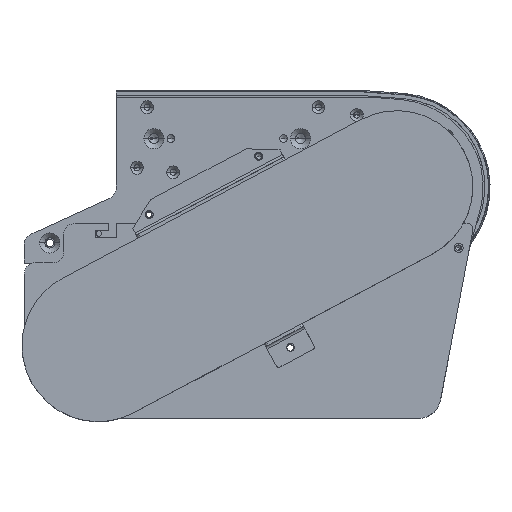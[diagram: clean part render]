
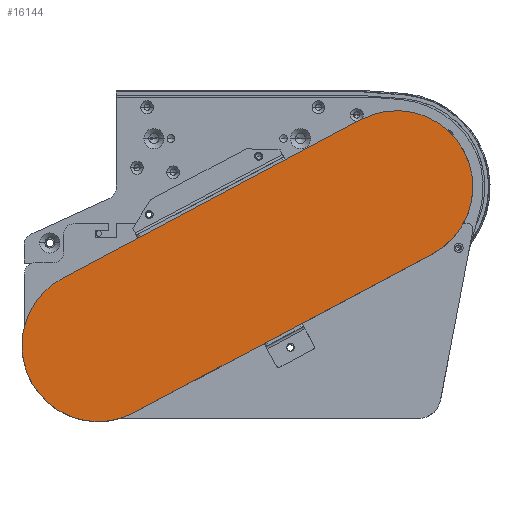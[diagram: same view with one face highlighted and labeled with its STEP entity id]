
A CAD part, top view. The second image highlights one B-rep face of the part: STEP entity #16144.
In plain terms, the highlighted planar face has unit normal (0, 0, 1).
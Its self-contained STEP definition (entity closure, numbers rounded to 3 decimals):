
#85 = VECTOR ( 'NONE', #21334, 1000. ) ;
#425 = CARTESIAN_POINT ( 'NONE',  ( -296.23, -81.334, 125.5 ) ) ;
#618 = CARTESIAN_POINT ( 'NONE',  ( -31.345, 59.508, 125.5 ) ) ;
#1584 = VERTEX_POINT ( 'NONE', #16053 ) ;
#1791 = ORIENTED_EDGE ( 'NONE', *, *, #9763, .F. ) ;
#2139 = EDGE_CURVE ( 'NONE', #5192, #3227, #4546, .T. ) ;
#2661 = CARTESIAN_POINT ( 'NONE',  ( -264.54, -140.933, 125.5 ) ) ;
#2893 = AXIS2_PLACEMENT_3D ( 'NONE', #21823, #4911, #16769 ) ;
#3227 = VERTEX_POINT ( 'NONE', #618 ) ;
#3736 = CARTESIAN_POINT ( 'NONE',  ( -264.54, -140.933, 125.5 ) ) ;
#4222 = ORIENTED_EDGE ( 'NONE', *, *, #6640, .F. ) ;
#4354 = DIRECTION ( 'NONE',  ( -1., 0., 0. ) ) ;
#4546 = LINE ( 'NONE', #19565, #85 ) ;
#4675 = AXIS2_PLACEMENT_3D ( 'NONE', #9924, #9697, #4720 ) ;
#4720 = DIRECTION ( 'NONE',  ( -1., 0., 0. ) ) ;
#4911 = DIRECTION ( 'NONE',  ( 0., 0., -1. ) ) ;
#5192 = VERTEX_POINT ( 'NONE', #425 ) ;
#5342 = ORIENTED_EDGE ( 'NONE', *, *, #2139, .F. ) ;
#6640 = EDGE_CURVE ( 'NONE', #3227, #1584, #13393, .T. ) ;
#6681 = ORIENTED_EDGE ( 'NONE', *, *, #9268, .F. ) ;
#7325 = VERTEX_POINT ( 'NONE', #19336 ) ;
#7546 = EDGE_CURVE ( 'NONE', #9840, #5192, #11458, .T. ) ;
#7685 = ORIENTED_EDGE ( 'NONE', *, *, #7546, .F. ) ;
#8274 = CARTESIAN_POINT ( 'NONE',  ( -232.851, -200.532, 125.5 ) ) ;
#9268 = EDGE_CURVE ( 'NONE', #7325, #9840, #18003, .T. ) ;
#9697 = DIRECTION ( 'NONE',  ( 0., 0., -1. ) ) ;
#9763 = EDGE_CURVE ( 'NONE', #1584, #7325, #17968, .T. ) ;
#9840 = VERTEX_POINT ( 'NONE', #18842 ) ;
#9924 = CARTESIAN_POINT ( 'NONE',  ( -264.54, -140.933, 125.5 ) ) ;
#10436 = DIRECTION ( 'NONE',  ( -1., 0., 0. ) ) ;
#11458 = CIRCLE ( 'NONE', #15911, 67.5 ) ;
#11688 = EDGE_LOOP ( 'NONE', ( #6681, #1791, #4222, #5342, #7685 ) ) ;
#13393 = CIRCLE ( 'NONE', #2893, 67.5 ) ;
#13908 = DIRECTION ( 'NONE',  ( 0., 0., -1. ) ) ;
#14454 = DIRECTION ( 'NONE',  ( 0., 0., -1. ) ) ;
#15066 = DIRECTION ( 'NONE',  ( -0.883, -0.469, 0. ) ) ;
#15911 = AXIS2_PLACEMENT_3D ( 'NONE', #2661, #14454, #4354 ) ;
#16053 = CARTESIAN_POINT ( 'NONE',  ( 32.033, -59.69, 125.5 ) ) ;
#16144 = ADVANCED_FACE ( 'NONE', ( #17009 ), #19948, .F. ) ;
#16769 = DIRECTION ( 'NONE',  ( -1., 0., 0. ) ) ;
#17009 = FACE_OUTER_BOUND ( 'NONE', #11688, .T. ) ;
#17968 = LINE ( 'NONE', #8274, #20844 ) ;
#18003 = CIRCLE ( 'NONE', #20435, 67.5 ) ;
#18842 = CARTESIAN_POINT ( 'NONE',  ( -332.04, -140.933, 125.5 ) ) ;
#19336 = CARTESIAN_POINT ( 'NONE',  ( -232.851, -200.532, 125.5 ) ) ;
#19565 = CARTESIAN_POINT ( 'NONE',  ( -296.23, -81.334, 125.5 ) ) ;
#19948 = PLANE ( 'NONE',  #4675 ) ;
#20435 = AXIS2_PLACEMENT_3D ( 'NONE', #3736, #13908, #10436 ) ;
#20844 = VECTOR ( 'NONE', #15066, 1000. ) ;
#21334 = DIRECTION ( 'NONE',  ( 0.883, 0.469, 0. ) ) ;
#21823 = CARTESIAN_POINT ( 'NONE',  ( 0.344, -0.091, 125.5 ) ) ;
